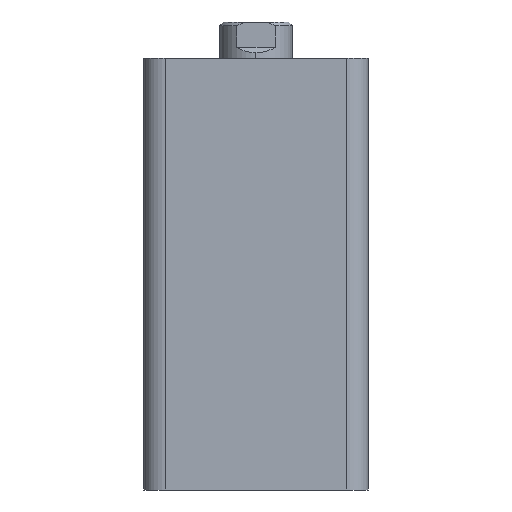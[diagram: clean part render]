
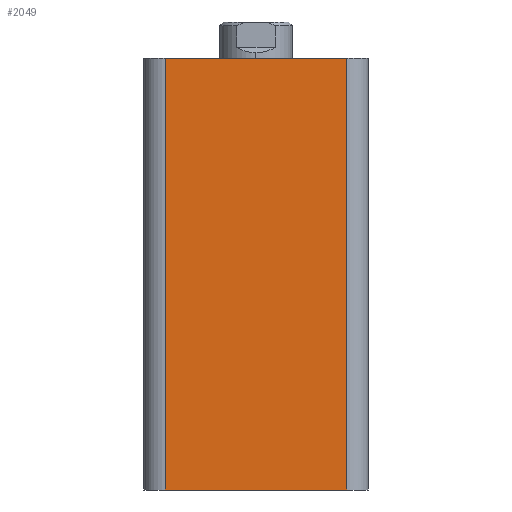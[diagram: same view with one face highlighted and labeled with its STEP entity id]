
A CAD part, left-side view. The second image highlights one B-rep face of the part: STEP entity #2049.
In plain terms, the highlighted planar face has unit normal (-1, 0, 0).
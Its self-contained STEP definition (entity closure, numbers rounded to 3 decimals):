
#463 = CARTESIAN_POINT ( 'NONE',  ( -31., -25., 0. ) ) ;
#479 = CARTESIAN_POINT ( 'NONE',  ( -31., 25., 0. ) ) ;
#510 = CARTESIAN_POINT ( 'NONE',  ( -31., -25., 119. ) ) ;
#593 = CARTESIAN_POINT ( 'NONE',  ( -31., 25., 119. ) ) ;
#817 = LINE ( 'NONE', #4773, #819 ) ;
#819 = VECTOR ( 'NONE', #4774, 1000. ) ;
#856 = LINE ( 'NONE', #4943, #860 ) ;
#860 = VECTOR ( 'NONE', #4941, 1000. ) ;
#874 = LINE ( 'NONE', #4967, #877 ) ;
#876 = LINE ( 'NONE', #4969, #879 ) ;
#877 = VECTOR ( 'NONE', #4968, 1000. ) ;
#879 = VECTOR ( 'NONE', #4970, 1000. ) ;
#1355 = AXIS2_PLACEMENT_3D ( 'NONE', #2166, #2161, #2160 ) ;
#1611 = FACE_OUTER_BOUND ( 'NONE', #1716, .T. ) ;
#1716 = EDGE_LOOP ( 'NONE', ( #3289, #3290, #3291, #3292 ) ) ;
#2049 = ADVANCED_FACE ( 'NONE', ( #1611 ), #2163, .F. ) ;
#2160 = DIRECTION ( 'NONE',  ( 0., 0., -1. ) ) ;
#2161 = DIRECTION ( 'NONE',  ( 1., 0., 0. ) ) ;
#2163 = PLANE ( 'NONE',  #1355 ) ;
#2166 = CARTESIAN_POINT ( 'NONE',  ( -31., 31., 119. ) ) ;
#2714 = EDGE_CURVE ( 'NONE', #4544, #4461, #817, .T. ) ;
#2749 = EDGE_CURVE ( 'NONE', #4429, #4413, #856, .T. ) ;
#2759 = EDGE_CURVE ( 'NONE', #4413, #4461, #874, .T. ) ;
#2760 = EDGE_CURVE ( 'NONE', #4544, #4429, #876, .T. ) ;
#3289 = ORIENTED_EDGE ( 'NONE', *, *, #2749, .T. ) ;
#3290 = ORIENTED_EDGE ( 'NONE', *, *, #2759, .T. ) ;
#3291 = ORIENTED_EDGE ( 'NONE', *, *, #2714, .F. ) ;
#3292 = ORIENTED_EDGE ( 'NONE', *, *, #2760, .T. ) ;
#4413 = VERTEX_POINT ( 'NONE', #463 ) ;
#4429 = VERTEX_POINT ( 'NONE', #479 ) ;
#4461 = VERTEX_POINT ( 'NONE', #510 ) ;
#4544 = VERTEX_POINT ( 'NONE', #593 ) ;
#4773 = CARTESIAN_POINT ( 'NONE',  ( -31., 31., 119. ) ) ;
#4774 = DIRECTION ( 'NONE',  ( 0., -1., 0. ) ) ;
#4941 = DIRECTION ( 'NONE',  ( 0., -1., 0. ) ) ;
#4943 = CARTESIAN_POINT ( 'NONE',  ( -31., 31., 0. ) ) ;
#4967 = CARTESIAN_POINT ( 'NONE',  ( -31., -25., 119. ) ) ;
#4968 = DIRECTION ( 'NONE',  ( 0., 0., 1. ) ) ;
#4969 = CARTESIAN_POINT ( 'NONE',  ( -31., 25., 119. ) ) ;
#4970 = DIRECTION ( 'NONE',  ( 0., 0., -1. ) ) ;
